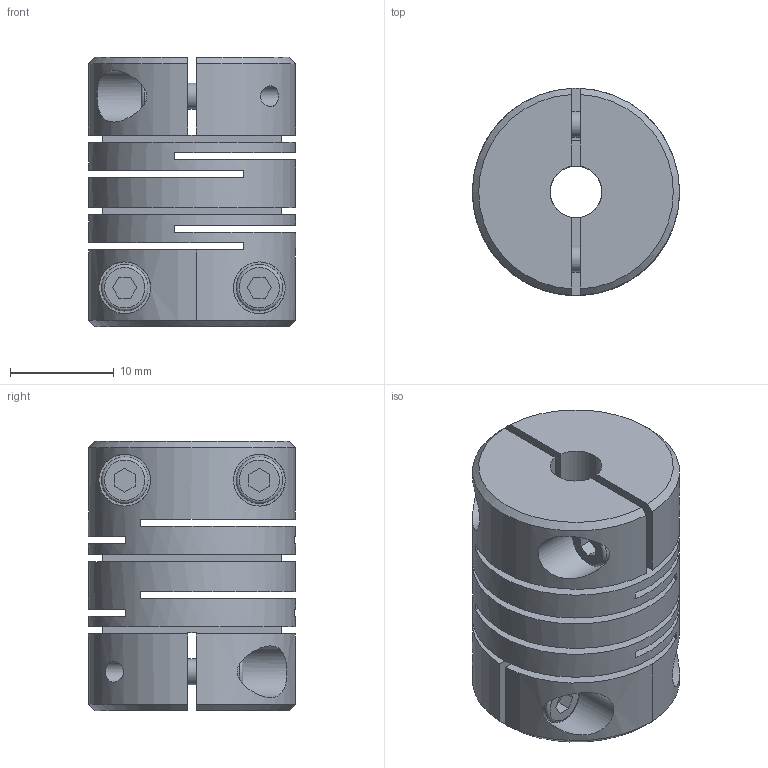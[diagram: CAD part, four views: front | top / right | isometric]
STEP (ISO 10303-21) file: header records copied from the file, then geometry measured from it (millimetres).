
FILE_DESCRIPTION (( 'STEP AP214' ), '1' );
FILE_NAME ('2246-20-B5-1_4-NI.step', '2022-05-27T09:30:55', ( '' ), ( '' ), 'SwSTEP 2.0', 'SolidWorks 2019', '' );
FILE_SCHEMA (( 'AUTOMOTIVE_DESIGN' ));
Length unit declared in the file: millimetre
Products named in the file (1): 2246-20-B5-1_4-NI
Bounding box: 20 x 20 x 26 mm (x, y, z)
Volume: 6084.5 mm3; surface area: 6141.7 mm2
Topology: 1 solids, 1 shells, 123 faces, 308 edges, 208 vertices
Faces by surface type: plane 79, cylinder 32, cone 8, torus 4
Full cylindrical faces by diameter (mm): 2.01 x4, 2.5 x4, 2.7 x4, 4.5 x4, 5 x7, 6.35 x3, 20 x1
Entity records: 4264 total; most frequent: CARTESIAN_POINT 939, DIRECTION 552, ORIENTED_EDGE 476, EDGE_CURVE 238, AXIS2_PLACEMENT_3D 207, EDGE_LOOP 200, VERTEX_POINT 178, FACE_OUTER_BOUND 153
